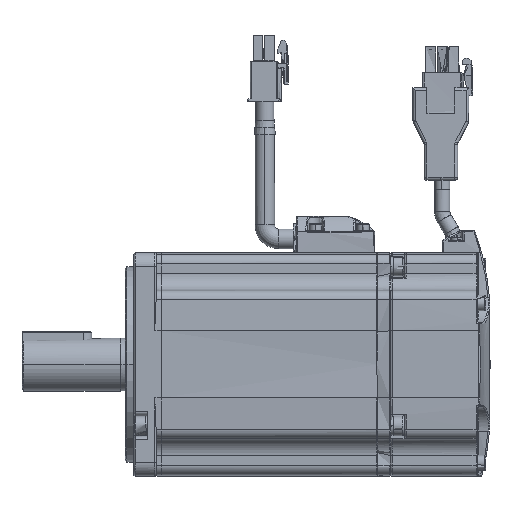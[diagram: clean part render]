
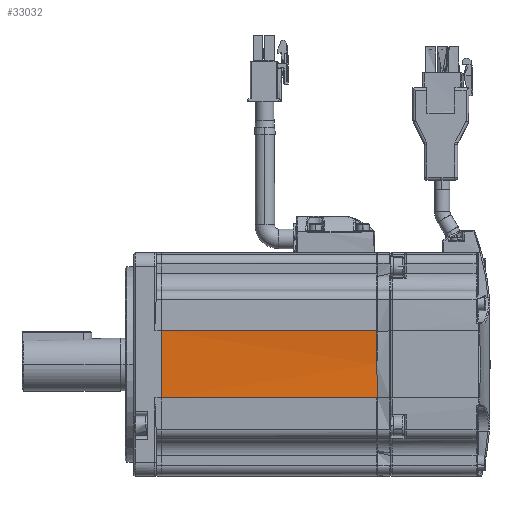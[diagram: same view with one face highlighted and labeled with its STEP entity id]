
A CAD part, top view. The second image highlights one B-rep face of the part: STEP entity #33032.
In plain terms, the highlighted planar face has unit normal (0, 0, 1).
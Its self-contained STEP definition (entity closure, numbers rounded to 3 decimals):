
#849 = DIRECTION ( 'NONE',  ( 0., 0., -1. ) ) ;
#1112 = EDGE_LOOP ( 'NONE', ( #13884, #14326, #14423, #14662 ) ) ;
#1961 = CARTESIAN_POINT ( 'NONE',  ( 17.324, 6.652, 42.727 ) ) ;
#3487 = CARTESIAN_POINT ( 'NONE',  ( 17.324, -9.348, 42.727 ) ) ;
#4065 = CARTESIAN_POINT ( 'NONE',  ( 17.324, 14.652, 42.727 ) ) ;
#5270 = CARTESIAN_POINT ( 'NONE',  ( 17.324, 14.652, 42.727 ) ) ;
#6567 = CARTESIAN_POINT ( 'NONE',  ( 42.991, -9.348, 42.727 ) ) ;
#9231 = CARTESIAN_POINT ( 'NONE',  ( 94.324, 14.652, 42.727 ) ) ;
#12315 = FACE_OUTER_BOUND ( 'NONE', #1112, .T. ) ;
#12550 = CARTESIAN_POINT ( 'NONE',  ( 94.324, 14.652, 42.727 ) ) ;
#12654 = CARTESIAN_POINT ( 'NONE',  ( 126.824, 2.652, 42.727 ) ) ;
#13884 = ORIENTED_EDGE ( 'NONE', *, *, #31645, .F. ) ;
#14326 = ORIENTED_EDGE ( 'NONE', *, *, #30980, .F. ) ;
#14423 = ORIENTED_EDGE ( 'NONE', *, *, #32547, .T. ) ;
#14662 = ORIENTED_EDGE ( 'NONE', *, *, #32615, .F. ) ;
#24359 = PLANE ( 'NONE',  #48835 ) ;
#24933 = CARTESIAN_POINT ( 'NONE',  ( 17.324, -1.348, 42.727 ) ) ;
#26040 = CARTESIAN_POINT ( 'NONE',  ( 94.324, -9.348, 42.727 ) ) ;
#27963 = CARTESIAN_POINT ( 'NONE',  ( 94.324, -9.348, 42.727 ) ) ;
#28242 = DIRECTION ( 'NONE',  ( 0., -1., 0. ) ) ;
#28653 = CARTESIAN_POINT ( 'NONE',  ( 42.991, 14.652, 42.727 ) ) ;
#29307 = CARTESIAN_POINT ( 'NONE',  ( 17.324, 14.652, 42.727 ) ) ;
#30980 = EDGE_CURVE ( 'NONE', #38196, #39201, #42493, .T. ) ;
#31645 = EDGE_CURVE ( 'NONE', #39201, #37376, #39086, .T. ) ;
#32477 = CARTESIAN_POINT ( 'NONE',  ( 68.657, 14.652, 42.727 ) ) ;
#32547 = EDGE_CURVE ( 'NONE', #38196, #39774, #35171, .T. ) ;
#32615 = EDGE_CURVE ( 'NONE', #37376, #39774, #34862, .T. ) ;
#32815 = CARTESIAN_POINT ( 'NONE',  ( 17.324, -9.348, 42.727 ) ) ;
#33032 = ADVANCED_FACE ( 'NONE', ( #12315 ), #24359, .F. ) ;
#33759 = CARTESIAN_POINT ( 'NONE',  ( 17.324, -9.348, 42.727 ) ) ;
#34862 = B_SPLINE_CURVE_WITH_KNOTS ( 'NONE', 3,
 ( #5270, #28653, #32477, #9231 ),
 .UNSPECIFIED., .F., .F.,
 ( 4, 4 ),
 ( 0., 1. ),
 .UNSPECIFIED. ) ;
#35171 = B_SPLINE_CURVE_WITH_KNOTS ( 'NONE', 3,
 ( #27963, #39121, #35578, #12550 ),
 .UNSPECIFIED., .F., .F.,
 ( 4, 4 ),
 ( 0., 1. ),
 .UNSPECIFIED. ) ;
#35578 = CARTESIAN_POINT ( 'NONE',  ( 94.324, 6.652, 42.727 ) ) ;
#37376 = VERTEX_POINT ( 'NONE', #4065 ) ;
#38196 = VERTEX_POINT ( 'NONE', #42135 ) ;
#39086 = B_SPLINE_CURVE_WITH_KNOTS ( 'NONE', 3,
 ( #32815, #24933, #1961, #29307 ),
 .UNSPECIFIED., .F., .F.,
 ( 4, 4 ),
 ( -1., 0. ),
 .UNSPECIFIED. ) ;
#39121 = CARTESIAN_POINT ( 'NONE',  ( 94.324, -1.348, 42.727 ) ) ;
#39201 = VERTEX_POINT ( 'NONE', #3487 ) ;
#39774 = VERTEX_POINT ( 'NONE', #45242 ) ;
#42135 = CARTESIAN_POINT ( 'NONE',  ( 94.324, -9.348, 42.727 ) ) ;
#42493 = B_SPLINE_CURVE_WITH_KNOTS ( 'NONE', 3,
 ( #26040, #48426, #6567, #33759 ),
 .UNSPECIFIED., .F., .F.,
 ( 4, 4 ),
 ( 0., 1. ),
 .UNSPECIFIED. ) ;
#45242 = CARTESIAN_POINT ( 'NONE',  ( 94.324, 14.652, 42.727 ) ) ;
#48426 = CARTESIAN_POINT ( 'NONE',  ( 68.657, -9.348, 42.727 ) ) ;
#48835 = AXIS2_PLACEMENT_3D ( 'NONE', #12654, #849, #28242 ) ;
